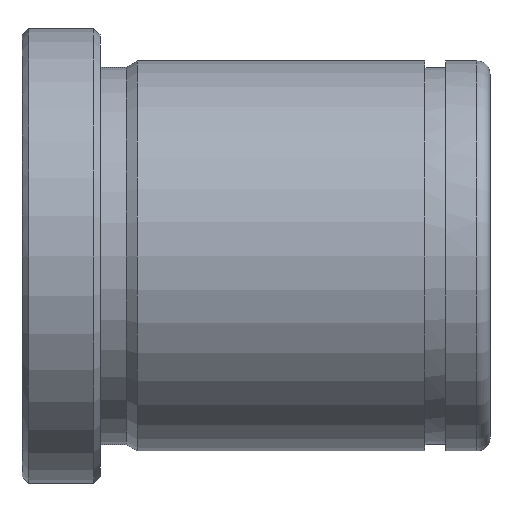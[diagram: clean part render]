
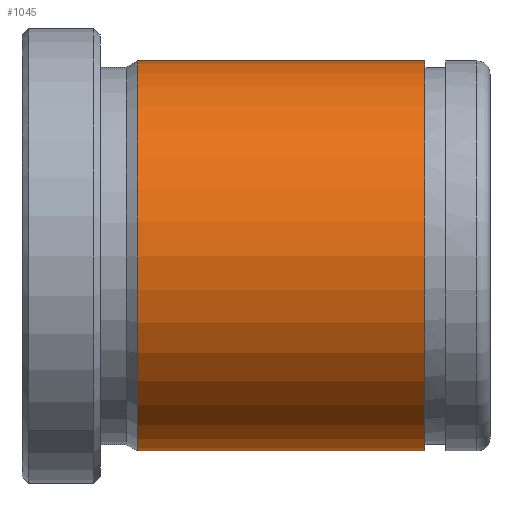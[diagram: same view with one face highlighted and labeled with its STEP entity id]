
A CAD part, front view. The second image highlights one B-rep face of the part: STEP entity #1045.
In plain terms, the highlighted cylindrical face has radius 15 mm (diameter 30 mm), a partial arc.
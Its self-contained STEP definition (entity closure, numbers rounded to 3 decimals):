
#851=CARTESIAN_POINT('Vertex',(8.866,0.,-15.)) ;
#858=CARTESIAN_POINT('Vertex',(8.866,0.,15.)) ;
#887=CARTESIAN_POINT('Axis2P3D Location',(8.866,0.,0.)) ;
#891=CARTESIAN_POINT('Vertex',(8.866,-15.,0.)) ;
#894=CARTESIAN_POINT('Axis2P3D Location',(8.866,0.,0.)) ;
#985=CARTESIAN_POINT('Line Origine',(72.,0.,15.)) ;
#989=CARTESIAN_POINT('Vertex',(31.,0.,15.)) ;
#1003=CARTESIAN_POINT('Vertex',(31.,0.,-15.)) ;
#1006=CARTESIAN_POINT('Line Origine',(72.,0.,-15.)) ;
#1020=CARTESIAN_POINT('Axis2P3D Location',(72.,0.,0.)) ;
#1025=CARTESIAN_POINT('Axis2P3D Location',(31.,0.,0.)) ;
#1029=CARTESIAN_POINT('Vertex',(31.,-15.,0.)) ;
#1032=CARTESIAN_POINT('Axis2P3D Location',(31.,0.,0.)) ;
#888=DIRECTION('Axis2P3D Direction',(1.,0.,-0.)) ;
#895=DIRECTION('Axis2P3D Direction',(1.,0.,-0.)) ;
#986=DIRECTION('Vector Direction',(-1.,0.,0.)) ;
#1007=DIRECTION('Vector Direction',(-1.,0.,0.)) ;
#1021=DIRECTION('Axis2P3D Direction',(-1.,-0.,-0.)) ;
#1022=DIRECTION('Axis2P3D XDirection',(0.,0.,-1.)) ;
#1026=DIRECTION('Axis2P3D Direction',(-1.,-0.,-0.)) ;
#1033=DIRECTION('Axis2P3D Direction',(-1.,-0.,-0.)) ;
#889=AXIS2_PLACEMENT_3D('Circle Axis2P3D',#887,#888,$) ;
#896=AXIS2_PLACEMENT_3D('Circle Axis2P3D',#894,#895,$) ;
#1023=AXIS2_PLACEMENT_3D('Cylinder Axis2P3D',#1020,#1021,#1022) ;
#1027=AXIS2_PLACEMENT_3D('Circle Axis2P3D',#1025,#1026,$) ;
#1034=AXIS2_PLACEMENT_3D('Circle Axis2P3D',#1032,#1033,$) ;
#1038=ORIENTED_EDGE('',*,*,#1010,.T.) ;
#1039=ORIENTED_EDGE('',*,*,#1031,.F.) ;
#1040=ORIENTED_EDGE('',*,*,#1036,.F.) ;
#1041=ORIENTED_EDGE('',*,*,#991,.T.) ;
#1042=ORIENTED_EDGE('',*,*,#898,.T.) ;
#1043=ORIENTED_EDGE('',*,*,#893,.T.) ;
#987=VECTOR('Line Direction',#986,1.) ;
#1008=VECTOR('Line Direction',#1007,1.) ;
#1045=ADVANCED_FACE('553-24X36',(#1044),#1024,.T.) ;
#890=CIRCLE('generated circle',#889,15.) ;
#897=CIRCLE('generated circle',#896,15.) ;
#1028=CIRCLE('generated circle',#1027,15.) ;
#1035=CIRCLE('generated circle',#1034,15.) ;
#1024=CYLINDRICAL_SURFACE('generated cylinder',#1023,15.) ;
#893=EDGE_CURVE('',#892,#852,#890,.T.) ;
#898=EDGE_CURVE('',#859,#892,#897,.T.) ;
#991=EDGE_CURVE('',#990,#859,#988,.T.) ;
#1010=EDGE_CURVE('',#852,#1004,#1009,.F.) ;
#1031=EDGE_CURVE('',#1030,#1004,#1028,.F.) ;
#1036=EDGE_CURVE('',#990,#1030,#1035,.F.) ;
#1037=EDGE_LOOP('',(#1038,#1039,#1040,#1041,#1042,#1043)) ;
#1044=FACE_OUTER_BOUND('',#1037,.T.) ;
#988=LINE('Line',#985,#987) ;
#1009=LINE('Line',#1006,#1008) ;
#852=VERTEX_POINT('',#851) ;
#859=VERTEX_POINT('',#858) ;
#892=VERTEX_POINT('',#891) ;
#990=VERTEX_POINT('',#989) ;
#1004=VERTEX_POINT('',#1003) ;
#1030=VERTEX_POINT('',#1029) ;
